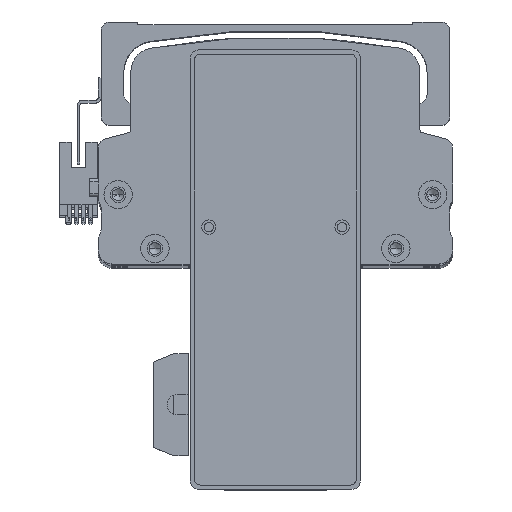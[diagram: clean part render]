
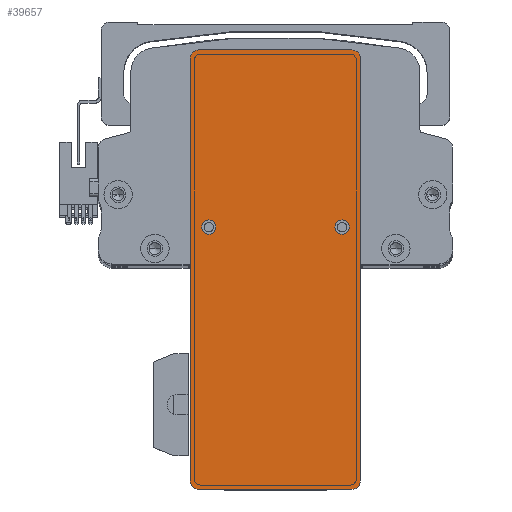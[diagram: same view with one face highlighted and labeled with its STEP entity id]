
A CAD part, top view. The second image highlights one B-rep face of the part: STEP entity #39657.
In plain terms, the highlighted planar face has unit normal (0, 0, 1) as drawn and (0, 0, -1) by its records, which use the part's own axes.
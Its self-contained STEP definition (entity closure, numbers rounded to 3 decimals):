
#400 = CARTESIAN_POINT ( 'NONE',  ( 77.5, 27., 0. ) ) ;
#1404 = EDGE_CURVE ( 'NONE', #65214, #46871, #43307, .T. ) ;
#3255 = AXIS2_PLACEMENT_3D ( 'NONE', #21056, #64321, #27279 ) ;
#3354 = AXIS2_PLACEMENT_3D ( 'NONE', #26462, #69662, #32671 ) ;
#3528 = CARTESIAN_POINT ( 'NONE',  ( 15., -23.5, 0. ) ) ;
#5308 = DIRECTION ( 'NONE',  ( 0., 0., -1. ) ) ;
#5374 = CARTESIAN_POINT ( 'NONE',  ( 12.5, 23.5, 0. ) ) ;
#6845 = CIRCLE ( 'NONE', #3255, 3. ) ;
#8028 = LINE ( 'NONE', #49875, #22549 ) ;
#9754 = DIRECTION ( 'NONE',  ( -1., 0., 0. ) ) ;
#10285 = CARTESIAN_POINT ( 'NONE',  ( 74.5, -27., 0. ) ) ;
#10425 = ORIENTED_EDGE ( 'NONE', *, *, #38609, .F. ) ;
#11108 = LINE ( 'NONE', #54367, #21736 ) ;
#11303 = PLANE ( 'NONE',  #49583 ) ;
#13225 = CARTESIAN_POINT ( 'NONE',  ( 74.5, 27., 0. ) ) ;
#15082 = AXIS2_PLACEMENT_3D ( 'NONE', #10285, #53531, #16533 ) ;
#15565 = ORIENTED_EDGE ( 'NONE', *, *, #32147, .F. ) ;
#15608 = CARTESIAN_POINT ( 'NONE',  ( 74.5, 30., 0. ) ) ;
#15656 = CARTESIAN_POINT ( 'NONE',  ( 15., 23.5, 0. ) ) ;
#16181 = VERTEX_POINT ( 'NONE', #55305 ) ;
#16533 = DIRECTION ( 'NONE',  ( 1., 0., 0. ) ) ;
#16898 = DIRECTION ( 'NONE',  ( 1., 0., 0. ) ) ;
#17737 = VERTEX_POINT ( 'NONE', #24518 ) ;
#19286 = VECTOR ( 'NONE', #41069, 1000. ) ;
#19437 = DIRECTION ( 'NONE',  ( 1., 0., 0. ) ) ;
#20533 = VERTEX_POINT ( 'NONE', #22989 ) ;
#21001 = EDGE_CURVE ( 'NONE', #44574, #72428, #28728, .T. ) ;
#21056 = CARTESIAN_POINT ( 'NONE',  ( -74.5, 27., 0. ) ) ;
#21079 = VECTOR ( 'NONE', #16898, 1000. ) ;
#21736 = VECTOR ( 'NONE', #41942, 1000. ) ;
#21854 = DIRECTION ( 'NONE',  ( -1., 0., 0. ) ) ;
#22549 = VECTOR ( 'NONE', #50138, 1000. ) ;
#22639 = ORIENTED_EDGE ( 'NONE', *, *, #59731, .T. ) ;
#22989 = CARTESIAN_POINT ( 'NONE',  ( 77.5, -27., 0. ) ) ;
#23011 = LINE ( 'NONE', #53895, #21079 ) ;
#23204 = CIRCLE ( 'NONE', #52987, 3. ) ;
#24186 = EDGE_CURVE ( 'NONE', #51352, #56789, #23204, .T. ) ;
#24518 = CARTESIAN_POINT ( 'NONE',  ( 17.5, -23.5, 0. ) ) ;
#24939 = CARTESIAN_POINT ( 'NONE',  ( -74.5, -30., 0. ) ) ;
#26462 = CARTESIAN_POINT ( 'NONE',  ( 15., 23.5, 0. ) ) ;
#27253 = VERTEX_POINT ( 'NONE', #76794 ) ;
#27279 = DIRECTION ( 'NONE',  ( 1., 0., 0. ) ) ;
#28728 = CIRCLE ( 'NONE', #53055, 2.5 ) ;
#29933 = FACE_BOUND ( 'NONE', #79650, .T. ) ;
#30440 = EDGE_CURVE ( 'NONE', #65214, #16181, #23011, .T. ) ;
#31180 = CIRCLE ( 'NONE', #3354, 2.5 ) ;
#31323 = DIRECTION ( 'NONE',  ( 0., 0., -1. ) ) ;
#32147 = EDGE_CURVE ( 'NONE', #51352, #27253, #8028, .T. ) ;
#32671 = DIRECTION ( 'NONE',  ( -1., 0., 0. ) ) ;
#35187 = CARTESIAN_POINT ( 'NONE',  ( -77.5, 27., 0. ) ) ;
#35704 = LINE ( 'NONE', #78150, #19286 ) ;
#36158 = CARTESIAN_POINT ( 'NONE',  ( 0., 0., 0. ) ) ;
#36501 = ORIENTED_EDGE ( 'NONE', *, *, #44107, .F. ) ;
#37438 = CARTESIAN_POINT ( 'NONE',  ( 12.5, -23.5, 0. ) ) ;
#38204 = EDGE_CURVE ( 'NONE', #53095, #46871, #35704, .T. ) ;
#38609 = EDGE_CURVE ( 'NONE', #72428, #44574, #31180, .T. ) ;
#39086 = ORIENTED_EDGE ( 'NONE', *, *, #24186, .T. ) ;
#39657 = ADVANCED_FACE ( 'NONE', ( #44444, #29933, #77343 ), #11303, .F. ) ;
#40711 = EDGE_CURVE ( 'NONE', #17737, #41950, #73382, .T. ) ;
#41069 = DIRECTION ( 'NONE',  ( 0., -1., 0. ) ) ;
#41942 = DIRECTION ( 'NONE',  ( 0., 1., 0. ) ) ;
#41950 = VERTEX_POINT ( 'NONE', #37438 ) ;
#42388 = DIRECTION ( 'NONE',  ( 1., 0., 0. ) ) ;
#42390 = CARTESIAN_POINT ( 'NONE',  ( -74.5, -27., 0. ) ) ;
#42974 = ORIENTED_EDGE ( 'NONE', *, *, #38204, .F. ) ;
#43307 = CIRCLE ( 'NONE', #45614, 3. ) ;
#43691 = CARTESIAN_POINT ( 'NONE',  ( -77.5, -27., 0. ) ) ;
#44107 = EDGE_CURVE ( 'NONE', #20533, #56789, #11108, .T. ) ;
#44444 = FACE_BOUND ( 'NONE', #47951, .T. ) ;
#44574 = VERTEX_POINT ( 'NONE', #5374 ) ;
#45614 = AXIS2_PLACEMENT_3D ( 'NONE', #42390, #5308, #48599 ) ;
#46383 = CARTESIAN_POINT ( 'NONE',  ( 17.5, 23.5, 0. ) ) ;
#46801 = CIRCLE ( 'NONE', #63631, 2.5 ) ;
#46828 = DIRECTION ( 'NONE',  ( 0., 0., -1. ) ) ;
#46871 = VERTEX_POINT ( 'NONE', #43691 ) ;
#47105 = ORIENTED_EDGE ( 'NONE', *, *, #1404, .T. ) ;
#47951 = EDGE_LOOP ( 'NONE', ( #59161, #10425 ) ) ;
#48599 = DIRECTION ( 'NONE',  ( 1., 0., 0. ) ) ;
#49583 = AXIS2_PLACEMENT_3D ( 'NONE', #36158, #79437, #42388 ) ;
#49875 = CARTESIAN_POINT ( 'NONE',  ( 77.5, 30., 0. ) ) ;
#50138 = DIRECTION ( 'NONE',  ( -1., 0., 0. ) ) ;
#51352 = VERTEX_POINT ( 'NONE', #15608 ) ;
#52987 = AXIS2_PLACEMENT_3D ( 'NONE', #13225, #56471, #19437 ) ;
#53055 = AXIS2_PLACEMENT_3D ( 'NONE', #15656, #58904, #21854 ) ;
#53095 = VERTEX_POINT ( 'NONE', #35187 ) ;
#53531 = DIRECTION ( 'NONE',  ( 0., 0., -1. ) ) ;
#53895 = CARTESIAN_POINT ( 'NONE',  ( 77.5, -30., 0. ) ) ;
#54367 = CARTESIAN_POINT ( 'NONE',  ( 77.5, -30., 0. ) ) ;
#55305 = CARTESIAN_POINT ( 'NONE',  ( 74.5, -30., 0. ) ) ;
#55855 = AXIS2_PLACEMENT_3D ( 'NONE', #3528, #46828, #9754 ) ;
#56471 = DIRECTION ( 'NONE',  ( 0., 0., -1. ) ) ;
#56789 = VERTEX_POINT ( 'NONE', #400 ) ;
#58904 = DIRECTION ( 'NONE',  ( 0., 0., -1. ) ) ;
#59161 = ORIENTED_EDGE ( 'NONE', *, *, #21001, .F. ) ;
#59731 = EDGE_CURVE ( 'NONE', #53095, #27253, #6845, .T. ) ;
#63631 = AXIS2_PLACEMENT_3D ( 'NONE', #68331, #31323, #74570 ) ;
#64321 = DIRECTION ( 'NONE',  ( 0., 0., -1. ) ) ;
#65214 = VERTEX_POINT ( 'NONE', #24939 ) ;
#67450 = ORIENTED_EDGE ( 'NONE', *, *, #30440, .F. ) ;
#68003 = ORIENTED_EDGE ( 'NONE', *, *, #79999, .T. ) ;
#68331 = CARTESIAN_POINT ( 'NONE',  ( 15., -23.5, 0. ) ) ;
#68673 = CIRCLE ( 'NONE', #15082, 3. ) ;
#68724 = ORIENTED_EDGE ( 'NONE', *, *, #40711, .F. ) ;
#69662 = DIRECTION ( 'NONE',  ( 0., 0., -1. ) ) ;
#72428 = VERTEX_POINT ( 'NONE', #46383 ) ;
#73382 = CIRCLE ( 'NONE', #55855, 2.5 ) ;
#74570 = DIRECTION ( 'NONE',  ( -1., 0., 0. ) ) ;
#76794 = CARTESIAN_POINT ( 'NONE',  ( -74.5, 30., 0. ) ) ;
#77343 = FACE_OUTER_BOUND ( 'NONE', #79049, .T. ) ;
#78150 = CARTESIAN_POINT ( 'NONE',  ( -77.5, -30., 0. ) ) ;
#78210 = EDGE_CURVE ( 'NONE', #41950, #17737, #46801, .T. ) ;
#79049 = EDGE_LOOP ( 'NONE', ( #36501, #68003, #67450, #47105, #42974, #22639, #15565, #39086 ) ) ;
#79428 = ORIENTED_EDGE ( 'NONE', *, *, #78210, .F. ) ;
#79437 = DIRECTION ( 'NONE',  ( 0., 0., 1. ) ) ;
#79650 = EDGE_LOOP ( 'NONE', ( #79428, #68724 ) ) ;
#79999 = EDGE_CURVE ( 'NONE', #20533, #16181, #68673, .T. ) ;
